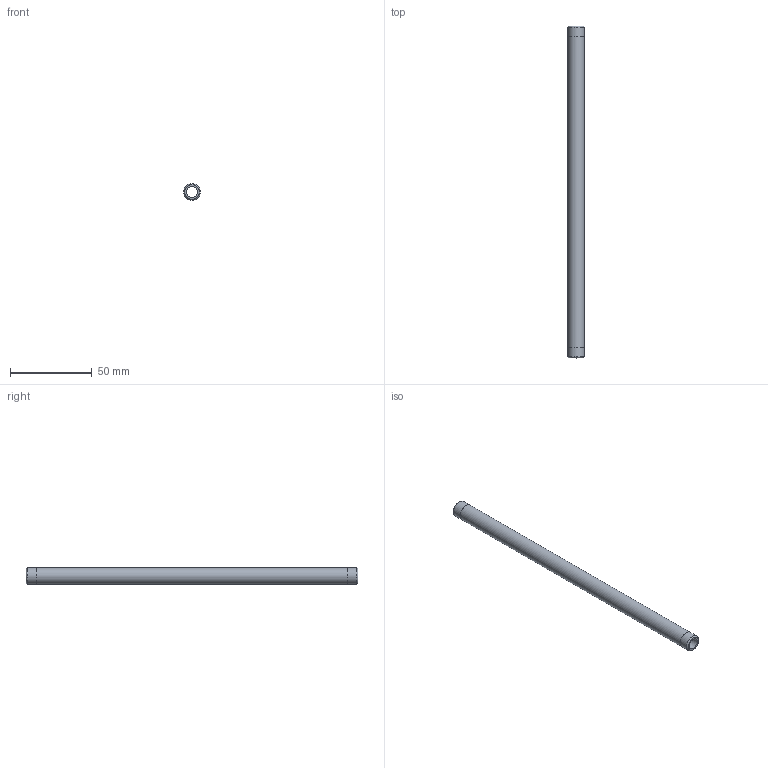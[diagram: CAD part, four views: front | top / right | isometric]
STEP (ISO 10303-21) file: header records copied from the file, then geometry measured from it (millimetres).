
FILE_DESCRIPTION(/* description */ (''),/* implementation_level */ '2;1');
FILE_NAME(/* name */ 'C:/Users/drich/Desktop/BPN18-8 v1.step',/* time_stamp */ '2020-01-03T14:49:29-06:00',/* author */ (''),/* organization */ (''),/* preprocessor_version */ 'ST-DEVELOPER v18',/* originating_system */ 'Autodesk Translation Framework v8.12.0.6',/* authorisation */ '');
FILE_SCHEMA (('AUTOMOTIVE_DESIGN { 1 0 10303 214 3 1 1 }'));
Length unit declared in the file: inch
Products named in the file (1): BPN18-8
Bounding box: 10.31 x 203.2 x 10.31 mm (x, y, z)
Volume: 9493.3 mm3; surface area: 11006.3 mm2
Topology: 1 solids, 1 shells, 10 faces, 24 edges, 18 vertices
Faces by surface type: cylinder 4, plane 4, cone 2
Full cylindrical faces by diameter (mm): 6.833 x1, 10.262 x2, 10.312 x1
Entity records: 360 total; most frequent: DIRECTION 64, CARTESIAN_POINT 53, ORIENTED_EDGE 48, AXIS2_PLACEMENT_3D 29, EDGE_CURVE 24, CIRCLE 18, VERTEX_POINT 18, EDGE_LOOP 14
